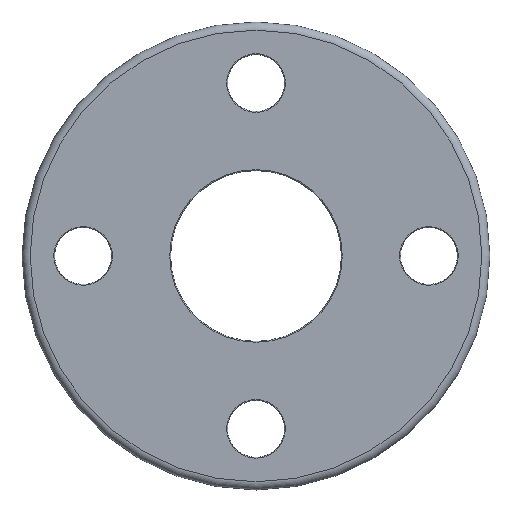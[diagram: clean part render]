
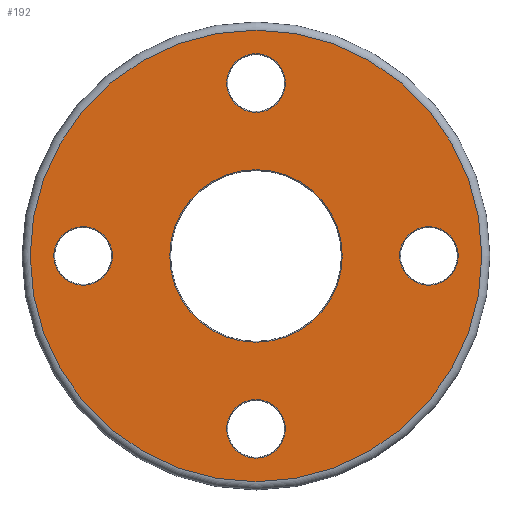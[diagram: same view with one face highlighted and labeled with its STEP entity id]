
A CAD part, top view. The second image highlights one B-rep face of the part: STEP entity #192.
In plain terms, the highlighted planar face has unit normal (0, 0, 1).
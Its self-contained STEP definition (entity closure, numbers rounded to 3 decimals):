
#21=PLANE('',#210);
#24=FACE_BOUND('',#62,.T.);
#25=FACE_BOUND('',#63,.T.);
#26=FACE_BOUND('',#64,.T.);
#27=FACE_BOUND('',#65,.T.);
#28=FACE_BOUND('',#66,.T.);
#46=FACE_OUTER_BOUND('',#61,.T.);
#61=EDGE_LOOP('',(#151));
#62=EDGE_LOOP('',(#152));
#63=EDGE_LOOP('',(#153));
#64=EDGE_LOOP('',(#154));
#65=EDGE_LOOP('',(#155));
#66=EDGE_LOOP('',(#156));
#96=CIRCLE('',#209,21.2);
#97=CIRCLE('',#211,55.5);
#98=CIRCLE('',#212,7.2);
#99=CIRCLE('',#213,7.2);
#100=CIRCLE('',#214,7.2);
#101=CIRCLE('',#215,7.2);
#114=VERTEX_POINT('',#309);
#115=VERTEX_POINT('',#312);
#116=VERTEX_POINT('',#314);
#117=VERTEX_POINT('',#316);
#118=VERTEX_POINT('',#318);
#119=VERTEX_POINT('',#320);
#132=EDGE_CURVE('',#114,#114,#96,.T.);
#133=EDGE_CURVE('',#115,#115,#97,.T.);
#134=EDGE_CURVE('',#116,#116,#98,.T.);
#135=EDGE_CURVE('',#117,#117,#99,.T.);
#136=EDGE_CURVE('',#118,#118,#100,.T.);
#137=EDGE_CURVE('',#119,#119,#101,.T.);
#151=ORIENTED_EDGE('',*,*,#133,.F.);
#152=ORIENTED_EDGE('',*,*,#134,.F.);
#153=ORIENTED_EDGE('',*,*,#135,.F.);
#154=ORIENTED_EDGE('',*,*,#136,.F.);
#155=ORIENTED_EDGE('',*,*,#137,.F.);
#156=ORIENTED_EDGE('',*,*,#132,.F.);
#192=ADVANCED_FACE('',(#46,#24,#25,#26,#27,#28),#21,.T.);
#209=AXIS2_PLACEMENT_3D('',#310,#245,#246);
#210=AXIS2_PLACEMENT_3D('',#311,#247,#248);
#211=AXIS2_PLACEMENT_3D('',#313,#249,#250);
#212=AXIS2_PLACEMENT_3D('',#315,#251,#252);
#213=AXIS2_PLACEMENT_3D('',#317,#253,#254);
#214=AXIS2_PLACEMENT_3D('',#319,#255,#256);
#215=AXIS2_PLACEMENT_3D('',#321,#257,#258);
#245=DIRECTION('center_axis',(0.,0.,1.));
#246=DIRECTION('ref_axis',(-1.,0.,0.));
#247=DIRECTION('center_axis',(0.,0.,1.));
#248=DIRECTION('ref_axis',(1.,0.,0.));
#249=DIRECTION('center_axis',(0.,0.,-1.));
#250=DIRECTION('ref_axis',(-1.,0.,0.));
#251=DIRECTION('center_axis',(0.,0.,1.));
#252=DIRECTION('ref_axis',(1.,0.,0.));
#253=DIRECTION('center_axis',(0.,0.,1.));
#254=DIRECTION('ref_axis',(-1.,0.,0.));
#255=DIRECTION('center_axis',(0.,0.,1.));
#256=DIRECTION('ref_axis',(0.,-1.,0.));
#257=DIRECTION('center_axis',(0.,0.,1.));
#258=DIRECTION('ref_axis',(0.,1.,0.));
#309=CARTESIAN_POINT('',(21.2,0.,14.));
#310=CARTESIAN_POINT('Origin',(0.,0.,14.));
#311=CARTESIAN_POINT('Origin',(0.,0.,14.));
#312=CARTESIAN_POINT('',(55.5,0.,14.));
#313=CARTESIAN_POINT('Origin',(0.,0.,14.));
#314=CARTESIAN_POINT('',(-7.2,-42.5,14.));
#315=CARTESIAN_POINT('Origin',(0.,-42.5,14.));
#316=CARTESIAN_POINT('',(7.2,42.5,14.));
#317=CARTESIAN_POINT('Origin',(0.,42.5,14.));
#318=CARTESIAN_POINT('',(-42.5,7.2,14.));
#319=CARTESIAN_POINT('Origin',(-42.5,0.,14.));
#320=CARTESIAN_POINT('',(42.5,-7.2,14.));
#321=CARTESIAN_POINT('Origin',(42.5,0.,14.));
